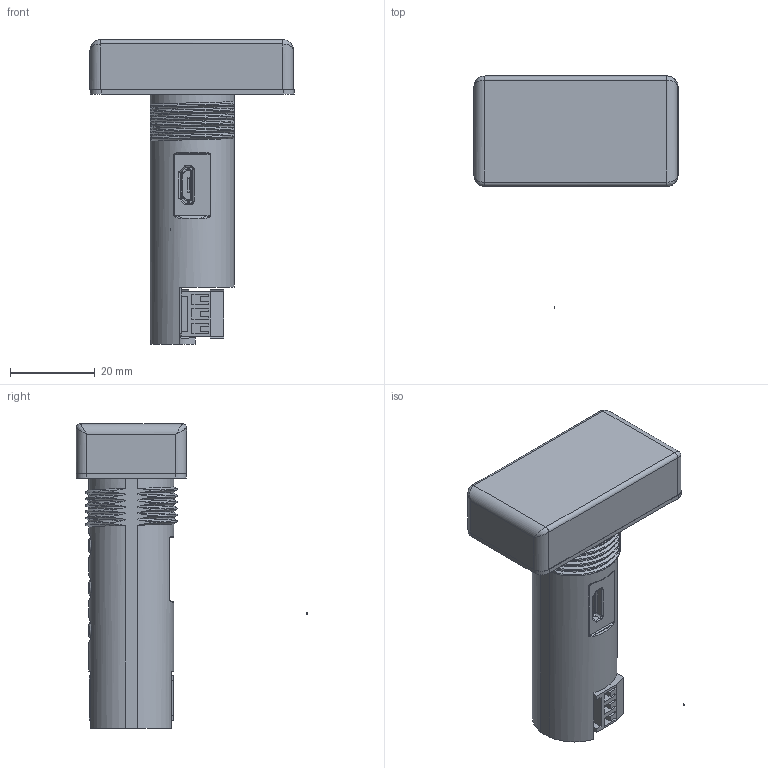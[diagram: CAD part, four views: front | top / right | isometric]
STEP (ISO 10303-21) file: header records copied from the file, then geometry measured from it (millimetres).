
FILE_DESCRIPTION(('STEP AP214'), '1');
FILE_NAME('3d_model_itp-15-17', '', ('UNSPECIFIED'), ('UNSPECIFIED'), 'C3D Converter', 'C3D Toolkit', '');
FILE_SCHEMA(('AUTOMOTIVE_DESIGN { 1 0 10303 214 3 1 1}'));
Length unit declared in the file: millimetre
Bounding box: 48.12 x 54.65 x 71.8 mm (x, y, z)
Volume: 32276.6 mm3; surface area: 12084.9 mm2
Topology: 1 solids, 2 shells, 1081 faces, 3008 edges, 1926 vertices
Faces by surface type: plane 516, cylinder 391, bspline 127, torus 26, cone 13, sphere 8
Full cylindrical faces by diameter (mm): 1 x18, 1.2 x6, 1.8 x6, 2.5 x6, 3.6 x3, 20.5 x1
Entity records: 65452 total; most frequent: CARTESIAN_POINT 30185, ORIENTED_EDGE 5818, DIRECTION 5127, EDGE_CURVE 2910, VERTEX_POINT 1926, AXIS2_PLACEMENT_3D 1732, LINE 1663, VECTOR 1663
